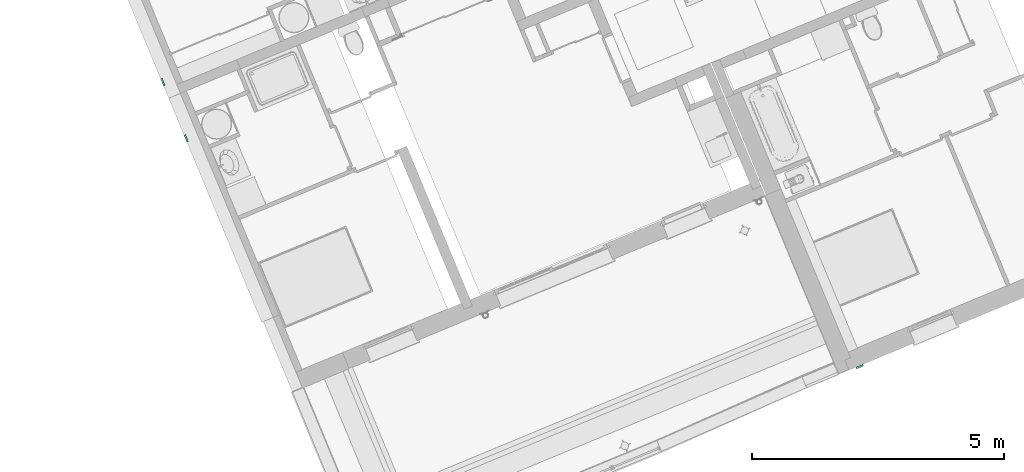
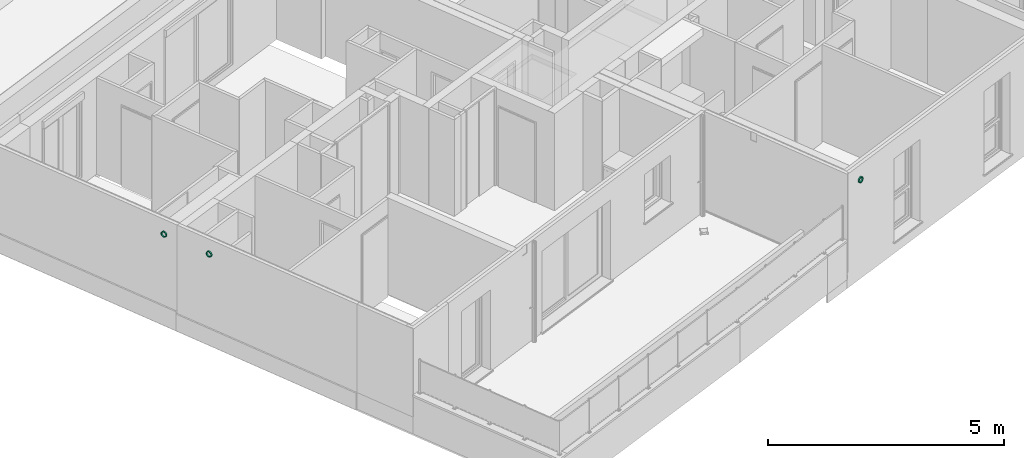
# One storey, part 112 of 119: 3 flow terminals.
"""IFC2X3 building model written with IfcOpenShell, lengths in metres."""

from ifc_helpers import new_model, entity, si_unit, converted_unit, derived_unit, money_unit, direction, frame, origin_with_axes, place, context, subcontext, project, spatial, faceted_brep, source, transform, mapped, type_object, element, save


model = new_model("IFC2X3")

# Units and contexts
model_context = context("Model", 3, precision=1e-05, world=origin_with_axes(), true_north=direction((0.0, 1.0)))
body_context = subcontext(model_context, "Body", "Model", "MODEL_VIEW")
ifc_project = project(units=[si_unit("LENGTHUNIT", "METRE"), si_unit("AREAUNIT", "SQUARE_METRE"), si_unit("VOLUMEUNIT", "CUBIC_METRE"), converted_unit("PLANEANGLEUNIT", "DEGREE", entity("IfcPlaneAngleMeasure", 0.0174532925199), si_unit("PLANEANGLEUNIT", "RADIAN"), dimensions=[0, 0, 0, 0, 0, 0, 0]), si_unit("SOLIDANGLEUNIT", "STERADIAN"), money_unit("EUR"), converted_unit("TIMEUNIT", "Year", entity("IfcTimeMeasure", 31556926.0), si_unit("TIMEUNIT", "SECOND"), dimensions=[0, 0, 1, 0, 0, 0, 0]), si_unit("MASSUNIT", "GRAM", prefix="KILO"), si_unit("THERMODYNAMICTEMPERATUREUNIT", "DEGREE_CELSIUS"), si_unit("LUMINOUSINTENSITYUNIT", "LUMEN"), si_unit("ENERGYUNIT", "JOULE", prefix="MEGA"), derived_unit("THERMALCONDUCTANCEUNIT", [(si_unit("POWERUNIT", "WATT"), 1), (si_unit("LENGTHUNIT", "METRE"), -1), (si_unit("THERMODYNAMICTEMPERATUREUNIT", "KELVIN"), -1)]), derived_unit("SPECIFICHEATCAPACITYUNIT", [(si_unit("ENERGYUNIT", "JOULE"), 1), (si_unit("MASSUNIT", "GRAM", prefix="KILO"), -1), (si_unit("THERMODYNAMICTEMPERATUREUNIT", "KELVIN"), -1)]), derived_unit("MASSDENSITYUNIT", [(si_unit("MASSUNIT", "GRAM", prefix="KILO"), 1), (si_unit("VOLUMEUNIT", "CUBIC_METRE"), -1)])], contexts=[model_context])

# Site, building, storey
site_placement = place(None, origin_with_axes())
site = spatial("IfcSite", under=ifc_project, at=site_placement, Name="Site", CompositionType="ELEMENT")
building_placement = place(site_placement, origin_with_axes())
building = spatial("IfcBuilding", under=site, at=building_placement, Name="Bâtiment", CompositionType="ELEMENT")
storey_placement = place(building_placement, origin_with_axes())
storey = spatial("IfcBuildingStorey", under=building, at=storey_placement, Name="Rez-de-chaussée", CompositionType="ELEMENT", Elevation=0.0)

# Flow terminals
space_heater_type = type_object("IfcSpaceHeaterType", Name="Tube évidé 23", PredefinedType="USERDEFINED")
shared_shape = source(origin_with_axes(), body_context, "Body", "Brep", [
    faceted_brep([(0.0, 0.0, -0.075), (0.0, 0.0194114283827, -0.0724444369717), (0.0, 0.0375, -0.0649519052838), (0.0, 0.053033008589, -0.053033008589), (0.0, 0.0649519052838, -0.0375), (0.0, 0.0724444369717, -0.0194114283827), (0.0, 0.075, 0.0), (0.0, 0.0724444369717, 0.0194114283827), (0.0, 0.0649519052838, 0.0375), (0.0, 0.053033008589, 0.053033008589), (0.0, 0.0375, 0.0649519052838), (0.0, 0.0194114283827, 0.0724444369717), (0.0, 0.0, 0.075), (0.0, -0.0194114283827, 0.0724444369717), (0.0, -0.0375, 0.0649519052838), (0.0, -0.053033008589, 0.053033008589), (0.0, -0.0649519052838, 0.0375), (0.0, -0.0724444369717, 0.0194114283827), (0.0, -0.075, 0.0), (0.0, -0.0724444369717, -0.0194114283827), (0.0, -0.0649519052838, -0.0375), (0.0, -0.053033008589, -0.053033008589), (0.0, -0.0375, -0.0649519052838), (0.0, -0.0194114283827, -0.0724444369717), (0.0, -0.0275, -0.0476313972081), (0.0, -0.0388908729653, -0.0388908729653), (0.0, -0.0476313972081, -0.0275), (0.0, -0.0531259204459, -0.0142350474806), (0.0, -0.055, 0.0), (0.0, -0.0531259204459, 0.0142350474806), (0.0, -0.0476313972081, 0.0275), (0.0, -0.0388908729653, 0.0388908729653), (0.0, -0.0275, 0.0476313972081), (0.0, -0.0142350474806, 0.0531259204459), (0.0, 0.0, 0.055), (0.0, 0.0142350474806, 0.0531259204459), (0.0, 0.0275, 0.0476313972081), (0.0, 0.0388908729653, 0.0388908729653), (0.0, 0.0476313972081, 0.0275), (0.0, 0.0531259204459, 0.0142350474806), (0.0, 0.055, 0.0), (0.0, 0.0531259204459, -0.0142350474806), (0.0, 0.0476313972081, -0.0275), (0.0, 0.0388908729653, -0.0388908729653), (0.0, 0.0275, -0.0476313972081), (0.0, 0.0142350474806, -0.0531259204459), (0.0, 0.0, -0.055), (0.0, -0.0142350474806, -0.0531259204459), (-0.0368596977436, 0.0, -0.075), (-0.0368596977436, 0.0194114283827, -0.0724444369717), (-0.0368596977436, 0.0375, -0.0649519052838), (-0.0368596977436, 0.053033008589, -0.053033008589), (-0.0368596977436, 0.0649519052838, -0.0375), (-0.0368596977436, 0.0724444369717, -0.0194114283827), (-0.0368596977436, 0.075, 0.0), (-0.0368596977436, 0.0724444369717, 0.0194114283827), (-0.0368596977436, 0.0649519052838, 0.0375), (-0.0368596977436, 0.053033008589, 0.053033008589), (-0.0368596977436, 0.0375, 0.0649519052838), (-0.0368596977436, 0.0194114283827, 0.0724444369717), (-0.0368596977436, 0.0, 0.075), (-0.0368596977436, -0.0194114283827, 0.0724444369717), (-0.0368596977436, -0.0375, 0.0649519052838), (-0.0368596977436, -0.053033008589, 0.053033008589), (-0.0368596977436, -0.0649519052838, 0.0375), (-0.0368596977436, -0.0724444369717, 0.0194114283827), (-0.0368596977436, -0.075, 0.0), (-0.0368596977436, -0.0724444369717, -0.0194114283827), (-0.0368596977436, -0.0649519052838, -0.0375), (-0.0368596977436, -0.053033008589, -0.053033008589), (-0.0368596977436, -0.0375, -0.0649519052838), (-0.0368596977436, -0.0194114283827, -0.0724444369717), (-0.0368596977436, -0.0388908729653, -0.0388908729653), (-0.0368596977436, -0.0275, -0.0476313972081), (-0.0368596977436, -0.0476313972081, -0.0275), (-0.0368596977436, -0.0531259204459, -0.0142350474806), (-0.0368596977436, -0.055, 0.0), (-0.0368596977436, -0.0531259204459, 0.0142350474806), (-0.0368596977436, -0.0476313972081, 0.0275), (-0.0368596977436, -0.0388908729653, 0.0388908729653), (-0.0368596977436, -0.0275, 0.0476313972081), (-0.0368596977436, -0.0142350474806, 0.0531259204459), (-0.0368596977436, 0.0, 0.055), (-0.0368596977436, 0.0142350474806, 0.0531259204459), (-0.0368596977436, 0.0275, 0.0476313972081), (-0.0368596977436, 0.0388908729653, 0.0388908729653), (-0.0368596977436, 0.0476313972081, 0.0275), (-0.0368596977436, 0.0531259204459, 0.0142350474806), (-0.0368596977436, 0.055, 0.0), (-0.0368596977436, 0.0531259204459, -0.0142350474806), (-0.0368596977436, 0.0476313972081, -0.0275), (-0.0368596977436, 0.0388908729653, -0.0388908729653), (-0.0368596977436, 0.0275, -0.0476313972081), (-0.0368596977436, 0.0142350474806, -0.0531259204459), (-0.0368596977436, 0.0, -0.055), (-0.0368596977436, -0.0142350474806, -0.0531259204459)], [[[0, 1, 2, 3, 4, 5, 6, 7, 8, 9, 10, 11, 12, 13, 14, 15, 16, 17, 18, 19, 20, 21, 22, 23], [24, 25, 26, 27, 28, 29, 30, 31, 32, 33, 34, 35, 36, 37, 38, 39, 40, 41, 42, 43, 44, 45, 46, 47]], [[48, 49, 1, 0]], [[49, 50, 2, 1]], [[50, 51, 3, 2]], [[51, 52, 4, 3]], [[52, 53, 5, 4]], [[53, 54, 6, 5]], [[54, 55, 7, 6]], [[55, 56, 8, 7]], [[56, 57, 9, 8]], [[57, 58, 10, 9]], [[58, 59, 11, 10]], [[59, 60, 12, 11]], [[60, 61, 13, 12]], [[61, 62, 14, 13]], [[62, 63, 15, 14]], [[63, 64, 16, 15]], [[64, 65, 17, 16]], [[65, 66, 18, 17]], [[66, 67, 19, 18]], [[67, 68, 20, 19]], [[68, 69, 21, 20]], [[69, 70, 22, 21]], [[70, 71, 23, 22]], [[71, 48, 0, 23]], [[72, 25, 24, 73]], [[74, 26, 25, 72]], [[75, 27, 26, 74]], [[76, 28, 27, 75]], [[77, 29, 28, 76]], [[78, 30, 29, 77]], [[79, 31, 30, 78]], [[80, 32, 31, 79]], [[81, 33, 32, 80]], [[82, 34, 33, 81]], [[83, 35, 34, 82]], [[84, 36, 35, 83]], [[85, 37, 36, 84]], [[86, 38, 37, 85]], [[87, 39, 38, 86]], [[88, 40, 39, 87]], [[89, 41, 40, 88]], [[90, 42, 41, 89]], [[91, 43, 42, 90]], [[92, 44, 43, 91]], [[93, 45, 44, 92]], [[94, 46, 45, 93]], [[95, 47, 46, 94]], [[73, 24, 47, 95]], [[70, 69, 68, 67, 66, 65, 64, 63, 62, 61, 60, 59, 58, 57, 56, 55, 54, 53, 52, 51, 50, 49, 48, 71], [92, 91, 90, 89, 88, 87, 86, 85, 84, 83, 82, 81, 80, 79, 78, 77, 76, 75, 74, 72, 73, 95, 94, 93]]]),
])
for number, where, z_axis, x_axis, name in (
    (1, (-33.5685968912, -22.4519450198, 2.35), (0.0, 0.0, 1.0), (-0.92370167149, -0.383112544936, 0.0), "MOB-003"),
    (2, (-33.106248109, -23.5666888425, 2.35), (0.0, 0.0, 1.0), (-0.92370167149, -0.383112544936, 0.0), "MOB-003"),
    (3, (-19.7404527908, -28.1030162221, 2.35), (0.0, 0.0, 1.0), (0.383112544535, -0.923701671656, 0.0), "MOB-003"),
):
    element("IfcFlowTerminal", number, at=place(storey_placement, frame(where, z_axis=z_axis, x_axis=x_axis)), inside=storey, type_object=space_heater_type, Name=name, ObjectType="GAS_TERMINAL", context=body_context, shape_type="MappedRepresentation", body=[
        mapped(shared_shape, transform((0.0, 0.0, 0.0))),
    ])

save(model, "model.ifc")
